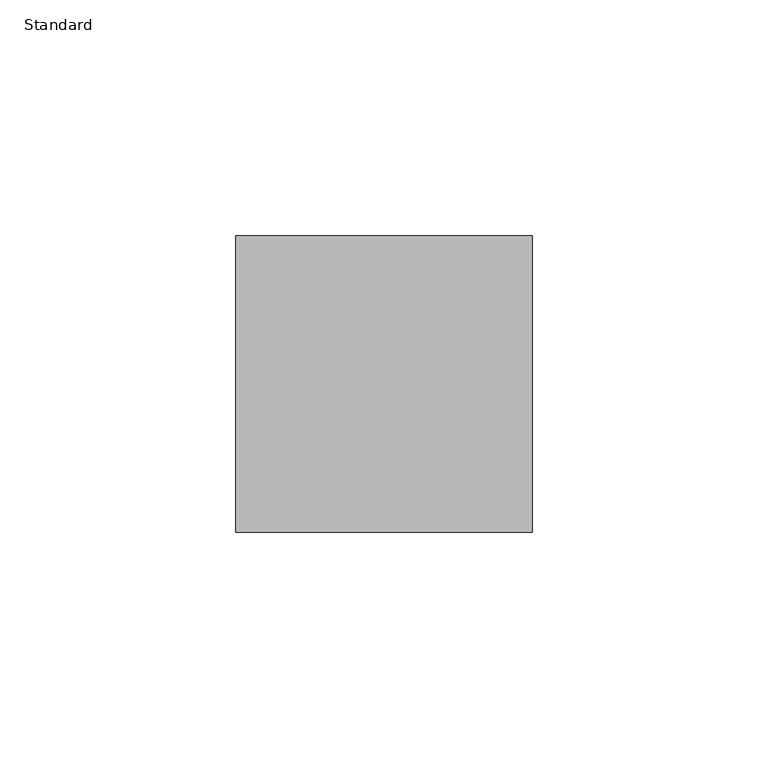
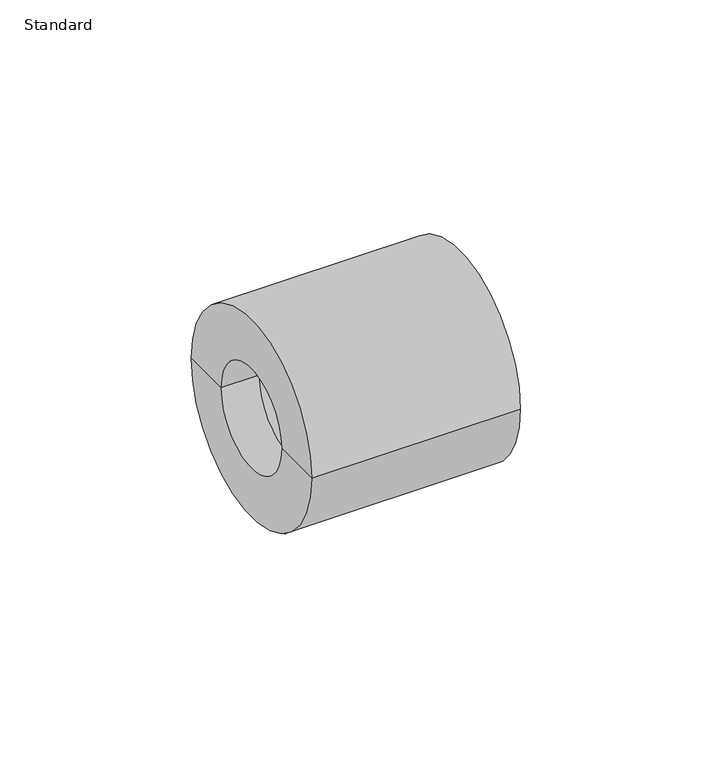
"""IFC4 building model written with IfcOpenShell, lengths in millimetres: pipe fitting geometry, Durapipe_PipeFitting_PVC_ReducingBush : Standard."""

from ifc_helpers import new_model, si_unit, frame, origin, place, context, project, spatial, polyline, circle_curve, source, transform, mapped, element, save
from ifc_brep_helpers import plane_surface, cylinder_surface, revolved_surface, advanced_brep


def standard_c90c374e(model_context):
    return source(origin(), model_context, "Body", "AdvancedBrep", [
        advanced_brep(
        [(-11.5, -16.0, 0.0), (-11.5, 16.0, 0.0), (-11.5, 31.5, 0.0), (-11.5, -31.5, 0.0), (0.0, -16.0, 0.0), (0.0, 16.0, 0.0), (0.0, -20.0, 0.0), (0.0, 20.0, 0.0), (51.5, -20.0, 0.0), (51.5, 20.0, 0.0), (51.5, -31.5, 0.0), (51.5, 31.5, 0.0)],
        [
            (0, 1, circle_curve(frame((-11.5, 0.0, 0.0), z_axis=(1.0, 0.0, 0.0), x_axis=(0.0, 1.0, 0.0)), 16.0)),
            (1, 2),
            (2, 3, circle_curve(frame((-11.5, 0.0, 0.0), z_axis=(-1.0, 0.0, 0.0), x_axis=(0.0, 1.0, 0.0)), 31.5)),
            (3, 0),
            (1, 0, circle_curve(frame((-11.5, 0.0, 0.0), z_axis=(1.0, 0.0, 0.0), x_axis=(0.0, 1.0, 0.0)), 16.0)),
            (3, 2, circle_curve(frame((-11.5, 0.0, 0.0), z_axis=(-1.0, 0.0, 0.0), x_axis=(0.0, 1.0, 0.0)), 31.5)),
            (4, 5, circle_curve(frame((0.0, 0.0, 0.0), z_axis=(1.0, 0.0, 0.0), x_axis=(0.0, 1.0, 0.0)), 16.0)),
            (5, 1),
            (0, 4),
            (5, 4, circle_curve(frame((0.0, 0.0, 0.0), z_axis=(1.0, 0.0, 0.0), x_axis=(0.0, 1.0, 0.0)), 16.0)),
            (6, 7, circle_curve(frame((0.0, 0.0, 0.0), z_axis=(1.0, 0.0, 0.0), x_axis=(0.0, 1.0, 0.0)), 20.0)),
            (7, 5),
            (4, 6),
            (7, 6, circle_curve(frame((0.0, 0.0, 0.0), z_axis=(1.0, 0.0, 0.0), x_axis=(0.0, 1.0, 0.0)), 20.0)),
            (8, 9, circle_curve(frame((51.5, 0.0, 0.0), z_axis=(1.0, 0.0, 0.0), x_axis=(0.0, 1.0, 0.0)), 20.0)),
            (9, 7),
            (6, 8),
            (9, 8, circle_curve(frame((51.5, 0.0, 0.0), z_axis=(1.0, 0.0, 0.0), x_axis=(0.0, 1.0, 0.0)), 20.0)),
            (10, 11, circle_curve(frame((51.5, 0.0, 0.0), z_axis=(1.0, 0.0, 0.0), x_axis=(0.0, 1.0, 0.0)), 31.5)),
            (11, 9),
            (8, 10),
            (11, 10, circle_curve(frame((51.5, 0.0, 0.0), z_axis=(1.0, 0.0, 0.0), x_axis=(0.0, 1.0, 0.0)), 31.5)),
            (2, 11),
            (10, 3),
        ],
        [
            plane_surface(frame((-11.5, 0.0, 0.0), z_axis=(-1.0, 0.0, 0.0), x_axis=(0.0, 1.0, 0.0))),
            revolved_surface(polyline([(-11.5, 16.0, 0.0), (0.0, 16.0, 0.0)]), (2037.5, 0.0, 0.0), (-1.0, 0.0, 0.0)),
            plane_surface(frame((0.0, 0.0, 0.0), z_axis=(1.0, 0.0, 0.0), x_axis=(0.0, 1.0, 0.0))),
            revolved_surface(polyline([(0.0, 20.0, 0.0), (51.5, 20.0, 0.0)]), (2037.5, 0.0, 0.0), (-1.0, 0.0, 0.0)),
            plane_surface(frame((51.5, 0.0, 0.0), z_axis=(1.0, 0.0, 0.0), x_axis=(0.0, 1.0, 0.0))),
            cylinder_surface(frame((2037.5, 0.0, 0.0), z_axis=(-1.0, 0.0, 0.0), x_axis=(0.0, 1.0, 0.0)), 31.5),
        ],
        [
            (0, [[1, 2, 3, 4]]),
            (0, [[5, -4, 6, -2]]),
            (1, [[7, 8, -1, 9]]),
            (1, [[10, -9, -5, -8]]),
            (2, [[11, 12, -7, 13]]),
            (2, [[14, -13, -10, -12]]),
            (3, [[15, 16, -11, 17]]),
            (3, [[18, -17, -14, -16]]),
            (4, [[19, 20, -15, 21]]),
            (4, [[22, -21, -18, -20]]),
            (5, [[-3, 23, -19, 24]]),
            (5, [[-6, -24, -22, -23]]),
        ],
    ),
    ])


if __name__ == "__main__":
    model = new_model("IFC4")
    model_context = context("Model", 3, world=origin())
    ifc_project = project(units=[si_unit("LENGTHUNIT", "METRE", prefix="MILLI")], contexts=[model_context])
    site = spatial("IfcSite", under=ifc_project)
    building = spatial("IfcBuilding", under=site)
    placement = place(None, origin())
    standard_shape = standard_c90c374e(model_context)
    element("IfcPipeFitting", 1, ObjectType="Durapipe_PipeFitting_PVC_ReducingBush : Standard", at=placement, inside=building, context=model_context, shape_type="MappedRepresentation", body=[
        mapped(standard_shape, transform((0.0, 0.0, 0.0), x_axis=(1.0, 0.0, 0.0), y_axis=(0.0, 1.0, 0.0), z_axis=(0.0, 0.0, 1.0))),
    ])
    save(model, "model.ifc")
